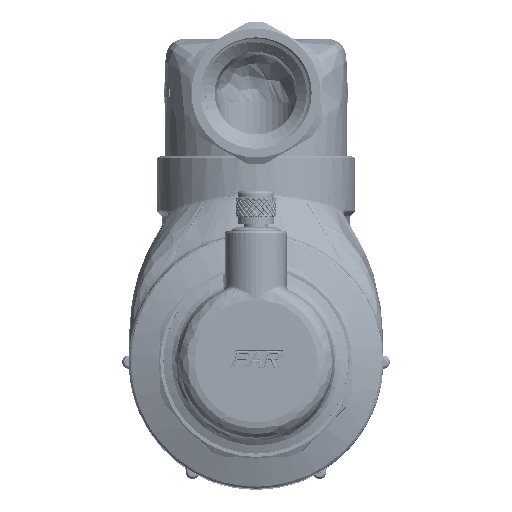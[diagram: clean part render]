
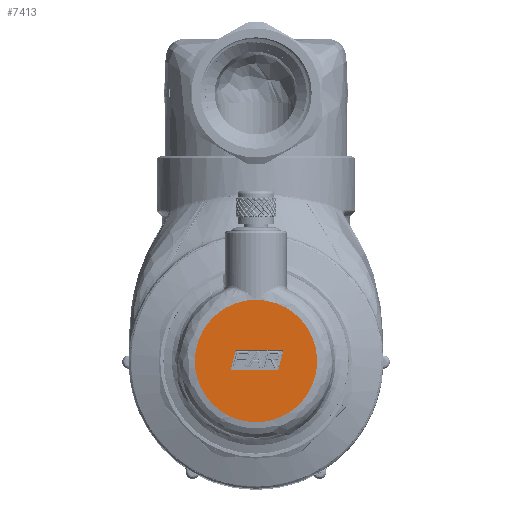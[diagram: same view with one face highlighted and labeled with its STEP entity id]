
A CAD part, top view. The second image highlights one B-rep face of the part: STEP entity #7413.
In plain terms, the highlighted planar face has unit normal (0, 0, 1) as drawn and (0, -1, 0) by its records, which use the part's own axes.
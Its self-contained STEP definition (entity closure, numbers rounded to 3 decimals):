
#4450 = ORIENTED_EDGE ( 'NONE', *, *, #68305, .F. ) ;
#7413 = ADVANCED_FACE ( 'NONE', ( #109768, #172628 ), #75176, .F. ) ;
#14314 = VERTEX_POINT ( 'NONE', #98252 ) ;
#14508 = VECTOR ( 'NONE', #195800, 1000. ) ;
#18402 = VERTEX_POINT ( 'NONE', #165082 ) ;
#28585 = EDGE_CURVE ( 'NONE', #14314, #142102, #31154, .T. ) ;
#29458 = CARTESIAN_POINT ( 'NONE',  ( 6.741, -20., -2.64 ) ) ;
#30493 = LINE ( 'NONE', #29458, #141761 ) ;
#31154 = LINE ( 'NONE', #145431, #187066 ) ;
#31302 = EDGE_LOOP ( 'NONE', ( #158659, #35090, #4450, #196577 ) ) ;
#35090 = ORIENTED_EDGE ( 'NONE', *, *, #207047, .F. ) ;
#38189 = CARTESIAN_POINT ( 'NONE',  ( 8.353, -20., 3.378 ) ) ;
#46512 = DIRECTION ( 'NONE',  ( -0.259, 0., -0.966 ) ) ;
#50276 = CARTESIAN_POINT ( 'NONE',  ( 6.741, -20., -2.64 ) ) ;
#59378 = VERTEX_POINT ( 'NONE', #38189 ) ;
#62489 = CARTESIAN_POINT ( 'NONE',  ( 0., -20., 0. ) ) ;
#66366 = EDGE_CURVE ( 'NONE', #102240, #18402, #131687, .T. ) ;
#66830 = CARTESIAN_POINT ( 'NONE',  ( 0., -20., 18.5 ) ) ;
#68305 = EDGE_CURVE ( 'NONE', #142102, #59378, #30493, .T. ) ;
#73064 = CARTESIAN_POINT ( 'NONE',  ( 8.353, -20., 3.378 ) ) ;
#75176 = PLANE ( 'NONE',  #100708 ) ;
#85103 = CARTESIAN_POINT ( 'NONE',  ( 8.869, -20., 16.235 ) ) ;
#85993 = ORIENTED_EDGE ( 'NONE', *, *, #202542, .F. ) ;
#87066 = CARTESIAN_POINT ( 'NONE',  ( 41.34, -20., -1.503 ) ) ;
#93599 = VECTOR ( 'NONE', #46512, 1000. ) ;
#98252 = CARTESIAN_POINT ( 'NONE',  ( -7.708, -20., -2.64 ) ) ;
#100708 = AXIS2_PLACEMENT_3D ( 'NONE', #62489, #122431, #171600 ) ;
#101436 = VERTEX_POINT ( 'NONE', #186353 ) ;
#102240 = VERTEX_POINT ( 'NONE', #85103 ) ;
#102837 = CARTESIAN_POINT ( 'NONE',  ( 8.869, -20., 16.235 ) ) ;
#103940 = EDGE_CURVE ( 'NONE', #162669, #14314, #156687, .T. ) ;
#106566 = EDGE_LOOP ( 'NONE', ( #85993, #113078, #130257 ) ) ;
#109768 = FACE_BOUND ( 'NONE', #31302, .T. ) ;
#110892 = DIRECTION ( 'NONE',  ( 1., 0., 0. ) ) ;
#112576 = CARTESIAN_POINT ( 'NONE',  ( 0., -20., 18.5 ) ) ;
#113078 = ORIENTED_EDGE ( 'NONE', *, *, #129098, .F. ) ;
#114622 = CARTESIAN_POINT ( 'NONE',  ( -8.869, -20., -16.235 ) ) ;
#117556 = CARTESIAN_POINT ( 'NONE',  ( -8.869, -20., -16.235 ) ) ;
#122431 = DIRECTION ( 'NONE',  ( 0., 1., 0. ) ) ;
#125426 = CARTESIAN_POINT ( 'NONE',  ( -6.097, -20., 3.372 ) ) ;
#129098 = EDGE_CURVE ( 'NONE', #18402, #101436, #206056, .T. ) ;
#130257 = ORIENTED_EDGE ( 'NONE', *, *, #66366, .F. ) ;
#131687 =( BOUNDED_CURVE ( )  B_SPLINE_CURVE ( 3, ( #102837, #87066, #198207, #117556 ),
 .UNSPECIFIED., .F., .F. ) 
 B_SPLINE_CURVE_WITH_KNOTS ( ( 4, 4 ),
 ( 0., 1. ),
 .UNSPECIFIED. ) 
 CURVE ( )  GEOMETRIC_REPRESENTATION_ITEM ( )  RATIONAL_B_SPLINE_CURVE ( ( 1., 0.333, 0.333, 1. ) ) 
 REPRESENTATION_ITEM ( '' )  );
#134997 = LINE ( 'NONE', #73064, #14508 ) ;
#141761 = VECTOR ( 'NONE', #171042, 1000. ) ;
#142102 = VERTEX_POINT ( 'NONE', #50276 ) ;
#145040 = CARTESIAN_POINT ( 'NONE',  ( -29.916, -20., -4.737 ) ) ;
#145431 = CARTESIAN_POINT ( 'NONE',  ( 0., -20., -2.64 ) ) ;
#156687 = LINE ( 'NONE', #172375, #93599 ) ;
#158659 = ORIENTED_EDGE ( 'NONE', *, *, #103940, .F. ) ;
#161253 = CARTESIAN_POINT ( 'NONE',  ( 6.135, -20., 17.729 ) ) ;
#162669 = VERTEX_POINT ( 'NONE', #125426 ) ;
#165082 = CARTESIAN_POINT ( 'NONE',  ( -8.869, -20., -16.235 ) ) ;
#171042 = DIRECTION ( 'NONE',  ( 0.259, 0., 0.966 ) ) ;
#171600 = DIRECTION ( 'NONE',  ( 0., 0., 1. ) ) ;
#172375 = CARTESIAN_POINT ( 'NONE',  ( -6.097, -20., 3.372 ) ) ;
#172628 = FACE_OUTER_BOUND ( 'NONE', #106566, .T. ) ;
#177993 = CARTESIAN_POINT ( 'NONE',  ( 8.869, -20., 16.235 ) ) ;
#178532 = CARTESIAN_POINT ( 'NONE',  ( -23.983, -20., 18.5 ) ) ;
#179094 =( BOUNDED_CURVE ( )  B_SPLINE_CURVE ( 3, ( #66830, #195794, #161253, #177993 ),
 .UNSPECIFIED., .F., .F. ) 
 B_SPLINE_CURVE_WITH_KNOTS ( ( 4, 4 ),
 ( 0., 1. ),
 .UNSPECIFIED. ) 
 CURVE ( )  GEOMETRIC_REPRESENTATION_ITEM ( )  RATIONAL_B_SPLINE_CURVE ( ( 1., 0.979, 0.979, 1. ) ) 
 REPRESENTATION_ITEM ( '' )  );
#186353 = CARTESIAN_POINT ( 'NONE',  ( 0., -20., 18.5 ) ) ;
#187066 = VECTOR ( 'NONE', #110892, 1000. ) ;
#195794 = CARTESIAN_POINT ( 'NONE',  ( 3.116, -20., 18.5 ) ) ;
#195800 = DIRECTION ( 'NONE',  ( -1., 0., 0. ) ) ;
#196577 = ORIENTED_EDGE ( 'NONE', *, *, #28585, .F. ) ;
#198207 = CARTESIAN_POINT ( 'NONE',  ( 23.601, -20., -33.974 ) ) ;
#202542 = EDGE_CURVE ( 'NONE', #101436, #102240, #179094, .T. ) ;
#206056 =( BOUNDED_CURVE ( )  B_SPLINE_CURVE ( 3, ( #114622, #145040, #178532, #112576 ),
 .UNSPECIFIED., .F., .F. ) 
 B_SPLINE_CURVE_WITH_KNOTS ( ( 4, 4 ),
 ( 0., 1. ),
 .UNSPECIFIED. ) 
 CURVE ( )  GEOMETRIC_REPRESENTATION_ITEM ( )  RATIONAL_B_SPLINE_CURVE ( ( 1., 0.498, 0.498, 1. ) ) 
 REPRESENTATION_ITEM ( '' )  );
#207047 = EDGE_CURVE ( 'NONE', #59378, #162669, #134997, .T. ) ;
